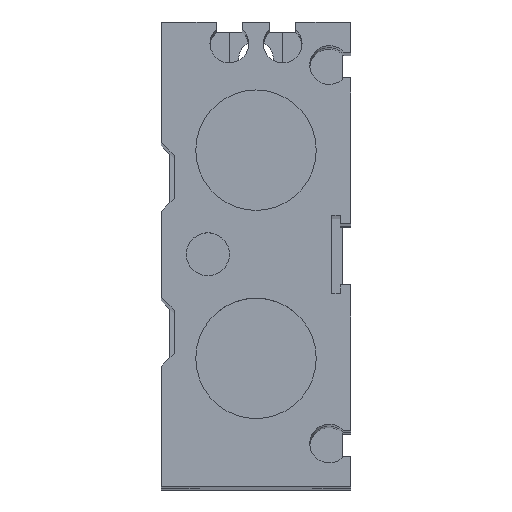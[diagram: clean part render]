
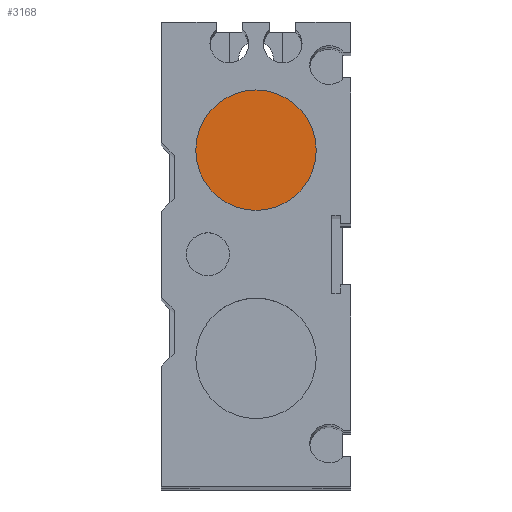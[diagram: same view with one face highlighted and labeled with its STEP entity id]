
A CAD part, top view. The second image highlights one B-rep face of the part: STEP entity #3168.
In plain terms, the highlighted planar face has unit normal (0, 0, 1).
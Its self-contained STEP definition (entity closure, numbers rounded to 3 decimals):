
#3137=CARTESIAN_POINT('',(7.,12.1,419.));
#3138=VERTEX_POINT('',#3137);
#3139=CARTESIAN_POINT('',(0.,12.1,419.));
#3140=DIRECTION('',(0.0,0.0,1.0));
#3141=DIRECTION('',(-1.0,0.0,0.0));
#3142=AXIS2_PLACEMENT_3D('',#3139,#3140,#3141);
#3143=CIRCLE('',#3142,7.);
#3144=EDGE_CURVE('',#3138,#3138,#3143,.T.);
#3160=CARTESIAN_POINT('',(0.,12.1,419.));
#3161=DIRECTION('',(0.0,0.0,-1.0));
#3162=DIRECTION('',(-1.0,0.0,0.0));
#3163=AXIS2_PLACEMENT_3D('',#3160,#3161,#3162);
#3164=PLANE('',#3163);
#3165=ORIENTED_EDGE('',*,*,#3144,.T.);
#3166=EDGE_LOOP('',(#3165));
#3167=FACE_OUTER_BOUND('',#3166,.T.);
#3168=ADVANCED_FACE('',(#3167),#3164,.F.);
